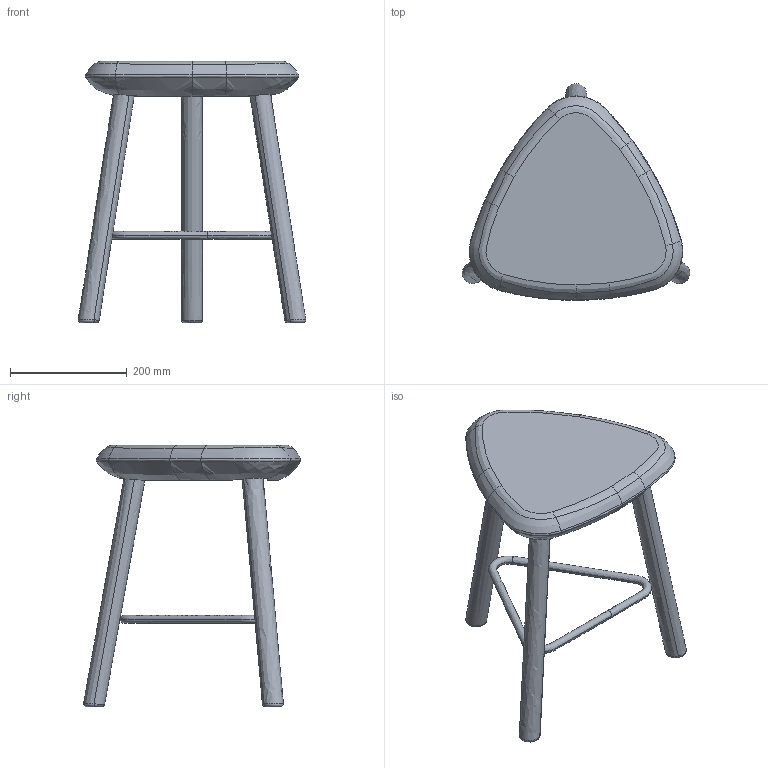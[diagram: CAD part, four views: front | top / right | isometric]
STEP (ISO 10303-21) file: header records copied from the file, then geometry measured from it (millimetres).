
FILE_DESCRIPTION(/* description */ (''),/* implementation_level */ '2;1');
FILE_NAME(/* name */ 'Pick base legno h45',/* time_stamp */ '2016-11-10T12:13:54+01:00',/* author */ (''),/* organization */ (''),/* preprocessor_version */ 'ST-DEVELOPER v10',/* originating_system */ '',/* authorisation */ '');
FILE_SCHEMA (('CONFIG_CONTROL_DESIGN'));
Length unit declared in the file: millimetre
Products named in the file (1): 1
Bounding box: 390.81 x 372.68 x 449 mm (x, y, z)
Volume: 5876127.1 mm3; surface area: 511513.3 mm2
Topology: 6 solids, 6 shells, 81 faces, 170 edges, 99 vertices
Faces by surface type: bspline 65, plane 16
Entity records: 25549 total; most frequent: CARTESIAN_POINT 24501, ORIENTED_EDGE 340, EDGE_CURVE 170, VERTEX_POINT 99, ADVANCED_FACE 81, FACE_OUTER_BOUND 81, EDGE_LOOP 81, B_SPLINE_CURVE_WITH_KNOTS 44
